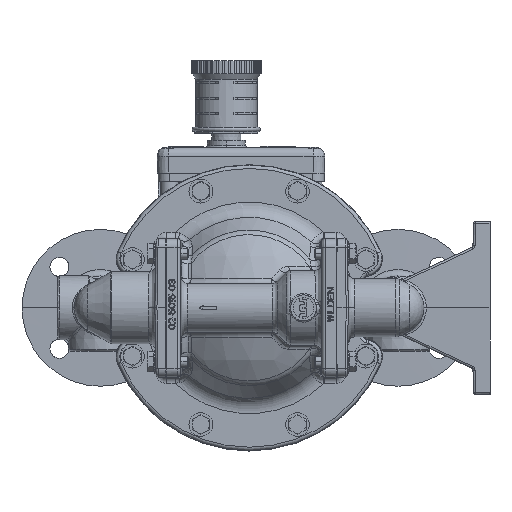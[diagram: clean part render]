
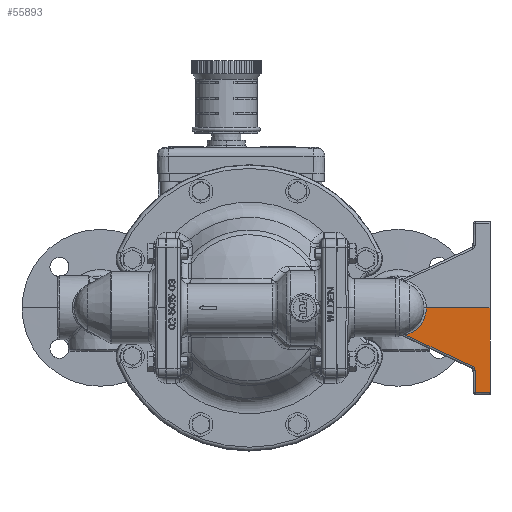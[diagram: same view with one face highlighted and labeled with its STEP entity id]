
A CAD part, left-side view. The second image highlights one B-rep face of the part: STEP entity #55893.
In plain terms, the highlighted planar face has unit normal (-1, 0.007, -0.016).
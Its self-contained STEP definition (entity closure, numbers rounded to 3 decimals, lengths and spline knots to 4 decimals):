
#1723 = CARTESIAN_POINT ( 'NONE',  ( -4.01, -4.2831, -0.7421 ) ) ;
#8682 = LINE ( 'NONE', #148982, #40369 ) ;
#11615 = CARTESIAN_POINT ( 'NONE',  ( -4.0264, -5.1166, -0.0965 ) ) ;
#12589 = DIRECTION ( 'NONE',  ( 0.007, 1., 0. ) ) ;
#13730 = CARTESIAN_POINT ( 'NONE',  ( -4.0109, -6.4946, -1.7167 ) ) ;
#13924 = ORIENTED_EDGE ( 'NONE', *, *, #145440, .T. ) ;
#14044 = CARTESIAN_POINT ( 'NONE',  ( -4.0279, -5.1205, 0. ) ) ;
#14216 = CARTESIAN_POINT ( 'NONE',  ( -4.0114, -4.5531, -0.7797 ) ) ;
#14399 = ORIENTED_EDGE ( 'NONE', *, *, #139782, .T. ) ;
#15501 = CARTESIAN_POINT ( 'NONE',  ( -4.0149, -4.7826, -0.6645 ) ) ;
#21825 = VERTEX_POINT ( 'NONE', #28744 ) ;
#23502 = EDGE_CURVE ( 'NONE', #131984, #21825, #219990, .T. ) ;
#23944 = PLANE ( 'NONE',  #235904 ) ;
#27216 = VECTOR ( 'NONE', #52839, 39.3701 ) ;
#28043 = LINE ( 'NONE', #50310, #115634 ) ;
#28744 = CARTESIAN_POINT ( 'NONE',  ( -4.011, -6.458, -1.6913 ) ) ;
#35160 = CARTESIAN_POINT ( 'NONE',  ( -4.0247, -5.0995, -0.1918 ) ) ;
#38957 = ORIENTED_EDGE ( 'NONE', *, *, #99283, .T. ) ;
#40369 = VECTOR ( 'NONE', #12589, 39.3701 ) ;
#44534 = VERTEX_POINT ( 'NONE', #232072 ) ;
#49391 = VERTEX_POINT ( 'NONE', #14044 ) ;
#50310 = CARTESIAN_POINT ( 'NONE',  ( -4.011, -4.5219, -0.7884 ) ) ;
#51541 = CARTESIAN_POINT ( 'NONE',  ( -4.0099, -6.5273, -1.7979 ) ) ;
#52275 = CARTESIAN_POINT ( 'NONE',  ( -4.011, -4.5219, -0.7884 ) ) ;
#52839 = DIRECTION ( 'NONE',  ( 0.016, -0.017, -1. ) ) ;
#55893 = ADVANCED_FACE ( 'NONE', ( #164300 ), #23944, .T. ) ;
#56846 = ORIENTED_EDGE ( 'NONE', *, *, #58111, .F. ) ;
#58111 = EDGE_CURVE ( 'NONE', #49391, #85512, #60179, .T. ) ;
#59466 = DIRECTION ( 'NONE',  ( -1., 0.007, -0.016 ) ) ;
#60179 = LINE ( 'NONE', #102134, #156869 ) ;
#60282 = VECTOR ( 'NONE', #222641, 39.3701 ) ;
#62596 = CARTESIAN_POINT ( 'NONE',  ( -4.0029, -6.96, -2.4409 ) ) ;
#68836 = CARTESIAN_POINT ( 'NONE',  ( -4.01, -6.5272, -1.7904 ) ) ;
#72505 = LINE ( 'NONE', #51541, #27216 ) ;
#73235 = CARTESIAN_POINT ( 'NONE',  ( -4.0164, -4.8575, -0.6032 ) ) ;
#74018 = CARTESIAN_POINT ( 'NONE',  ( -4.011, -6.4648, -1.6944 ) ) ;
#82701 = CARTESIAN_POINT ( 'NONE',  ( -4.0415, -6.96, 0. ) ) ;
#85512 = VERTEX_POINT ( 'NONE', #82701 ) ;
#91636 = CARTESIAN_POINT ( 'NONE',  ( -4.0135, -4.7011, -0.7166 ) ) ;
#92084 = EDGE_CURVE ( 'NONE', #187104, #44534, #8682, .T. ) ;
#92946 = CARTESIAN_POINT ( 'NONE',  ( -4.0279, -5.1205, 0. ) ) ;
#94403 = CARTESIAN_POINT ( 'NONE',  ( -4.0099, -6.5273, -1.7979 ) ) ;
#99283 = EDGE_CURVE ( 'NONE', #187104, #85512, #242282, .T. ) ;
#102134 = CARTESIAN_POINT ( 'NONE',  ( -4.0279, -5.1205, 0. ) ) ;
#109414 = CARTESIAN_POINT ( 'NONE',  ( -4.0029, -6.96, -2.4409 ) ) ;
#115634 = VECTOR ( 'NONE', #228714, 39.3701 ) ;
#131984 = VERTEX_POINT ( 'NONE', #94403 ) ;
#133079 = CARTESIAN_POINT ( 'NONE',  ( -4.0102, -6.5255, -1.7757 ) ) ;
#133765 = CARTESIAN_POINT ( 'NONE',  ( -4.011, -4.5219, -0.7884 ) ) ;
#134414 = ORIENTED_EDGE ( 'NONE', *, *, #201969, .T. ) ;
#134847 = CARTESIAN_POINT ( 'NONE',  ( -4.0122, -4.6138, -0.7587 ) ) ;
#139782 = EDGE_CURVE ( 'NONE', #49391, #221503, #253269, .T. ) ;
#145440 = EDGE_CURVE ( 'NONE', #131984, #44534, #72505, .T. ) ;
#148823 = CARTESIAN_POINT ( 'NONE',  ( -4.0105, -6.519, -1.7541 ) ) ;
#148982 = CARTESIAN_POINT ( 'NONE',  ( -4.0029, -6.96, -2.4409 ) ) ;
#150110 = ORIENTED_EDGE ( 'NONE', *, *, #92084, .F. ) ;
#151933 = CARTESIAN_POINT ( 'NONE',  ( -4.0197, -4.9833, -0.4565 ) ) ;
#156869 = VECTOR ( 'NONE', #182104, 39.3701 ) ;
#164300 = FACE_OUTER_BOUND ( 'NONE', #258928, .T. ) ;
#175486 = CARTESIAN_POINT ( 'NONE',  ( -4.0231, -5.0712, -0.2844 ) ) ;
#182104 = DIRECTION ( 'NONE',  ( -0.007, -1., 0. ) ) ;
#185887 = ORIENTED_EDGE ( 'NONE', *, *, #23502, .F. ) ;
#187104 = VERTEX_POINT ( 'NONE', #109414 ) ;
#190784 = CARTESIAN_POINT ( 'NONE',  ( -4.011, -6.458, -1.6913 ) ) ;
#193867 = CARTESIAN_POINT ( 'NONE',  ( -4.0274, -5.1205, -0.0323 ) ) ;
#201969 = EDGE_CURVE ( 'NONE', #221503, #21825, #28043, .T. ) ;
#207865 = CARTESIAN_POINT ( 'NONE',  ( -4.011, -6.4776, -1.7019 ) ) ;
#219990 = B_SPLINE_CURVE_WITH_KNOTS ( 'NONE', 3,
 ( #228843, #68836, #133079, #148823, #230154, #13730, #207865, #74018, #190784 ),
 .UNSPECIFIED., .F., .F.,
 ( 4, 1, 1, 1, 1, 1, 4 ),
 ( 0., 0.1667, 0.3333, 0.5, 0.6667, 0.8333, 1. ),
 .UNSPECIFIED. ) ;
#220764 = DIRECTION ( 'NONE',  ( -0.016, 0., 1. ) ) ;
#221503 = VERTEX_POINT ( 'NONE', #133765 ) ;
#222641 = DIRECTION ( 'NONE',  ( -0.016, 0., 1. ) ) ;
#228714 = DIRECTION ( 'NONE',  ( 0., -0.906, -0.423 ) ) ;
#228843 = CARTESIAN_POINT ( 'NONE',  ( -4.0099, -6.5273, -1.7979 ) ) ;
#230154 = CARTESIAN_POINT ( 'NONE',  ( -4.0107, -6.5085, -1.7343 ) ) ;
#231959 = CARTESIAN_POINT ( 'NONE',  ( -4.018, -4.9247, -0.5336 ) ) ;
#232072 = CARTESIAN_POINT ( 'NONE',  ( -3.9998, -6.5385, -2.4409 ) ) ;
#235904 = AXIS2_PLACEMENT_3D ( 'NONE', #1723, #59466, #220764 ) ;
#242282 = LINE ( 'NONE', #62596, #60282 ) ;
#252927 = CARTESIAN_POINT ( 'NONE',  ( -4.0214, -5.0323, -0.373 ) ) ;
#253269 = B_SPLINE_CURVE_WITH_KNOTS ( 'NONE', 3,
 ( #92946, #193867, #11615, #35160, #175486, #252927, #151933, #231959, #73235, #15501, #91636, #134847, #14216, #52275 ),
 .UNSPECIFIED., .F., .F.,
 ( 4, 1, 1, 1, 1, 1, 1, 1, 1, 1, 1, 4 ),
 ( 0., 0.0909, 0.1818, 0.2727, 0.3636, 0.4545, 0.5455, 0.6364, 0.7273, 0.8182, 0.9091, 1. ),
 .UNSPECIFIED. ) ;
#258928 = EDGE_LOOP ( 'NONE', ( #56846, #14399, #134414, #185887, #13924, #150110, #38957 ) ) ;
